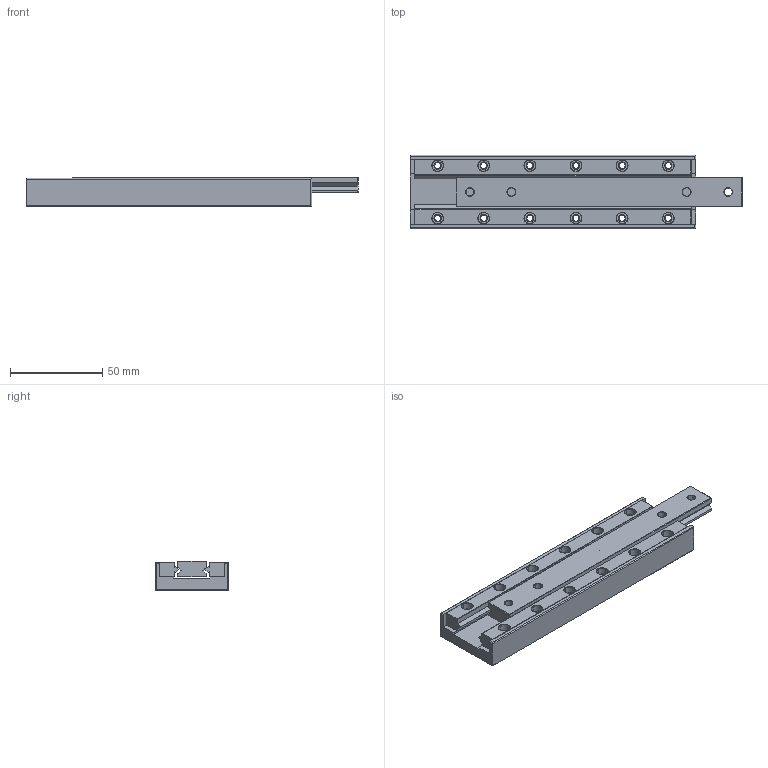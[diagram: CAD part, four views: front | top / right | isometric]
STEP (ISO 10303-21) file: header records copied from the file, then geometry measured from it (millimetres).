
FILE_DESCRIPTION((''),'2;1');
FILE_NAME('CRTA3155_ASM','2022-03-07T',('Administrator'),(''),'PRO/ENGINEER BY PARAMETRIC TECHNOLOGY CORPORATION, 2010280','PRO/ENGINEER BY PARAMETRIC TECHNOLOGY CORPORATION, 2010280','');
FILE_SCHEMA(('CONFIG_CONTROL_DESIGN'));
Length unit declared in the file: millimetre
Products named in the file (4): CRTA3155-1; CRTA-GV3155-1; CRTA3155-2; CRTA3155_ASM
Assembly tree (4 placements, depth 2):
  CRTA3155_ASM
    CRTA3155-1
    CRTA-GV3155-1  x2
    CRTA3155-2
Bounding box: 180 x 40 x 16 mm (x, y, z)
Volume: 79904.1 mm3; surface area: 45803 mm2
Topology: 4 solids, 29 shells, 507 faces, 1220 edges, 751 vertices
Faces by surface type: cylinder 192, cone 176, plane 139
Entity records: 12431 total; most frequent: DIRECTION 2341, CARTESIAN_POINT 2064, ORIENTED_EDGE 1942, EDGE_CURVE 1009, AXIS2_PLACEMENT_3D 898, VERTEX_POINT 621, VECTOR 545, LINE 545
